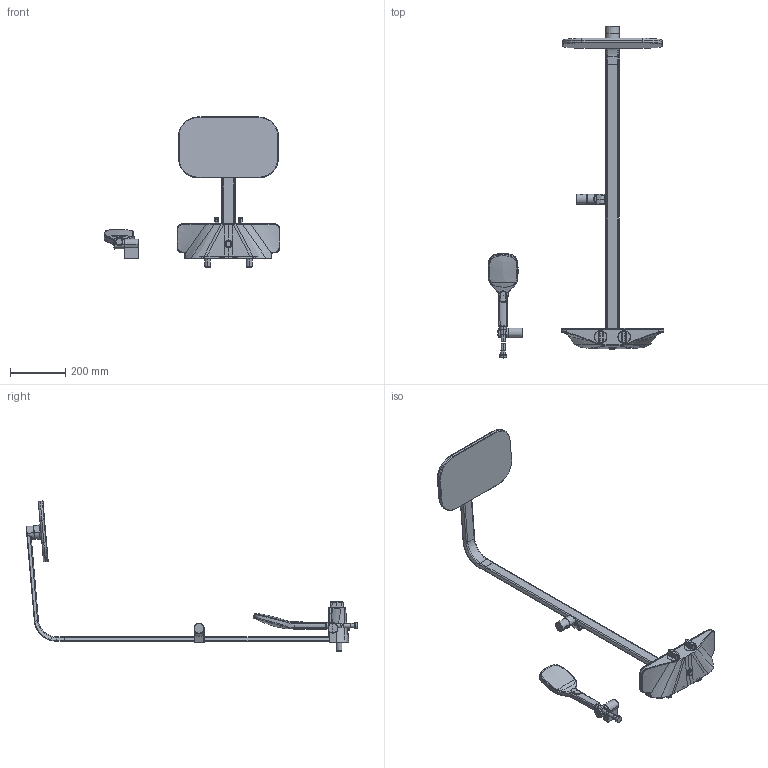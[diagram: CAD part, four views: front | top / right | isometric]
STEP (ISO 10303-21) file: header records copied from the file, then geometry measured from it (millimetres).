
FILE_DESCRIPTION (( 'STEP AP203' ), '1' );
FILE_NAME ('7590-11(2017).STEP', '2019-02-08T04:07:54', ( '' ), ( '' ), 'SwSTEP 2.0', 'SolidWorks 2016', '' );
FILE_SCHEMA (( 'CONFIG_CONTROL_DESIGN' ));
Length unit declared in the file: millimetre
Products named in the file (1): 7590-11(2017)
Bounding box: 633.57 x 1197.32 x 541.32 mm (x, y, z)
Volume: 5230762.3 mm3; surface area: 674956.2 mm2
Topology: 16 solids, 16 shells, 755 faces, 1814 edges, 1086 vertices
Faces by surface type: bspline 245, cylinder 211, plane 149, torus 76, cone 62, sphere 12
Entity records: 54906 total; most frequent: CARTESIAN_POINT 39508, ORIENTED_EDGE 3578, DIRECTION 2614, EDGE_CURVE 1789, VERTEX_POINT 1085, AXIS2_PLACEMENT_3D 1026, EDGE_LOOP 772, ADVANCED_FACE 754
